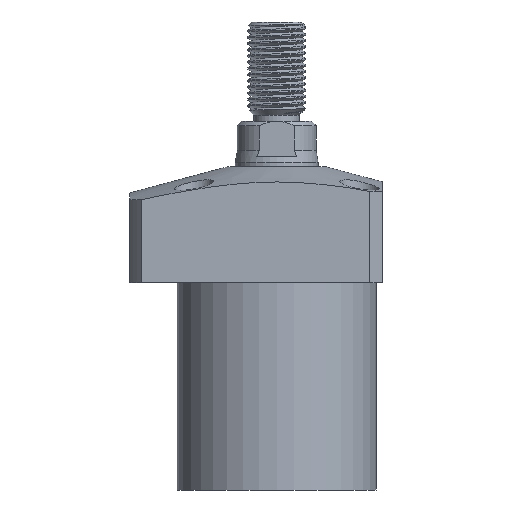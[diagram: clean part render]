
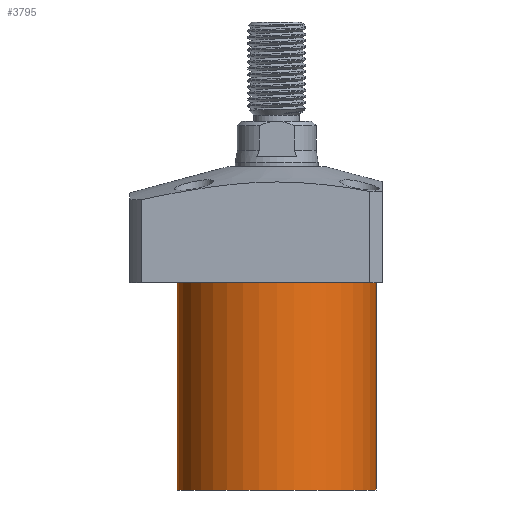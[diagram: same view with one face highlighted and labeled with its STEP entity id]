
A CAD part, front view. The second image highlights one B-rep face of the part: STEP entity #3795.
In plain terms, the highlighted cylindrical face has radius 24 mm (diameter 48 mm), a partial arc.
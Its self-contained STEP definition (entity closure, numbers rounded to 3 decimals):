
#296 = DIRECTION ( 'NONE',  ( 0., 0., -1. ) ) ;
#351 = EDGE_CURVE ( 'NONE', #2063, #1820, #4547, .T. ) ;
#437 = DIRECTION ( 'NONE',  ( 0., 0., 1. ) ) ;
#482 = DIRECTION ( 'NONE',  ( 0., 0., 1. ) ) ;
#640 = AXIS2_PLACEMENT_3D ( 'NONE', #1291, #482, #2432 ) ;
#666 = AXIS2_PLACEMENT_3D ( 'NONE', #737, #296, #5173 ) ;
#719 = ORIENTED_EDGE ( 'NONE', *, *, #351, .F. ) ;
#733 = EDGE_CURVE ( 'NONE', #4049, #2854, #4186, .T. ) ;
#737 = CARTESIAN_POINT ( 'NONE',  ( 0., 0., -14. ) ) ;
#764 = CIRCLE ( 'NONE', #666, 24. ) ;
#1070 = AXIS2_PLACEMENT_3D ( 'NONE', #2658, #1445, #2273 ) ;
#1235 = CARTESIAN_POINT ( 'NONE',  ( -24., 0., -64. ) ) ;
#1291 = CARTESIAN_POINT ( 'NONE',  ( 0., 0., -64. ) ) ;
#1419 = VECTOR ( 'NONE', #3867, 1000. ) ;
#1440 = ORIENTED_EDGE ( 'NONE', *, *, #3470, .F. ) ;
#1445 = DIRECTION ( 'NONE',  ( 0., 0., -1. ) ) ;
#1790 = CARTESIAN_POINT ( 'NONE',  ( -24., 0., -14. ) ) ;
#1820 = VERTEX_POINT ( 'NONE', #1790 ) ;
#1887 = CARTESIAN_POINT ( 'NONE',  ( 24., 0., -64. ) ) ;
#2063 = VERTEX_POINT ( 'NONE', #3927 ) ;
#2273 = DIRECTION ( 'NONE',  ( -1., 0., 0. ) ) ;
#2432 = DIRECTION ( 'NONE',  ( 1., 0., 0. ) ) ;
#2516 = CIRCLE ( 'NONE', #1070, 24. ) ;
#2658 = CARTESIAN_POINT ( 'NONE',  ( 0., 0., -64. ) ) ;
#2837 = EDGE_CURVE ( 'NONE', #2854, #1820, #764, .T. ) ;
#2854 = VERTEX_POINT ( 'NONE', #4705 ) ;
#3022 = EDGE_LOOP ( 'NONE', ( #719, #1440, #4073, #3752 ) ) ;
#3470 = EDGE_CURVE ( 'NONE', #4049, #2063, #2516, .T. ) ;
#3493 = CARTESIAN_POINT ( 'NONE',  ( 24., 0., -64. ) ) ;
#3577 = CYLINDRICAL_SURFACE ( 'NONE', #640, 24. ) ;
#3752 = ORIENTED_EDGE ( 'NONE', *, *, #2837, .T. ) ;
#3795 = ADVANCED_FACE ( 'NONE', ( #4530 ), #3577, .T. ) ;
#3867 = DIRECTION ( 'NONE',  ( 0., 0., 1. ) ) ;
#3927 = CARTESIAN_POINT ( 'NONE',  ( -24., 0., -64. ) ) ;
#4049 = VERTEX_POINT ( 'NONE', #1887 ) ;
#4073 = ORIENTED_EDGE ( 'NONE', *, *, #733, .T. ) ;
#4186 = LINE ( 'NONE', #3493, #1419 ) ;
#4530 = FACE_OUTER_BOUND ( 'NONE', #3022, .T. ) ;
#4547 = LINE ( 'NONE', #1235, #4682 ) ;
#4682 = VECTOR ( 'NONE', #437, 1000. ) ;
#4705 = CARTESIAN_POINT ( 'NONE',  ( 24., 0., -14. ) ) ;
#5173 = DIRECTION ( 'NONE',  ( 1., 0., 0. ) ) ;
